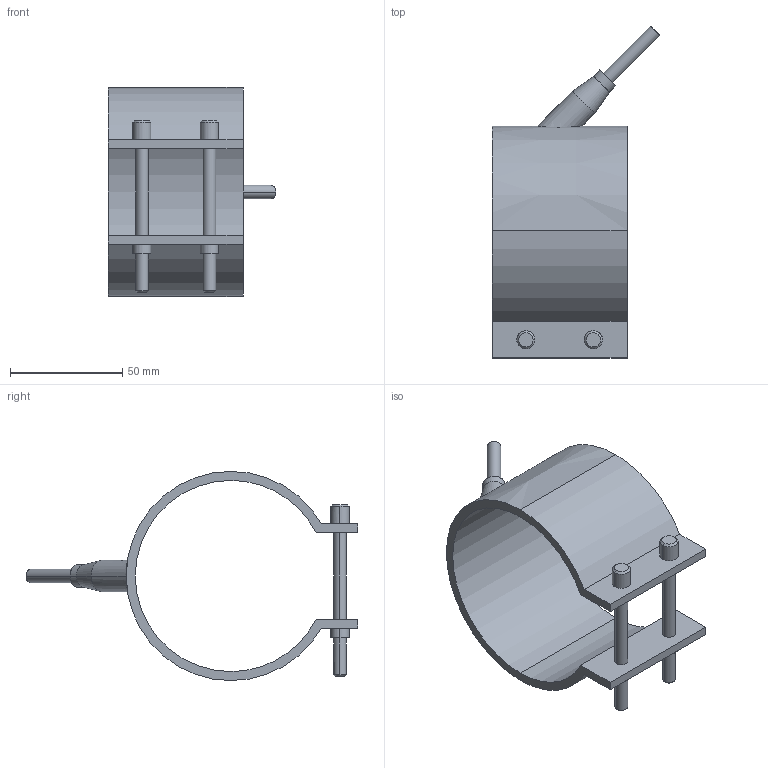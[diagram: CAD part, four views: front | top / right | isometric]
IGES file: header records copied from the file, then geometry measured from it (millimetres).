
Start section: START RECORD GO HERE.
Global section: file name: 29085060.igs; native system: DASSAULT SYSTEMES CATIA V5 R20 - www.3ds.com; preprocessor: CATIA Version 5 Release 20 ; author: Utente; organization: NB04-ASUS; date: 20210329.200233; units: millimetre
Bounding box: 74.55 x 147.55 x 93 mm (x, y, z)
Surface area: 39196 mm2 (no closed solid volume)
Topology: 0 solids, 0 shells, 54 faces, 246 edges, 246 vertices
Faces by surface type: revolution 38, plane 16
